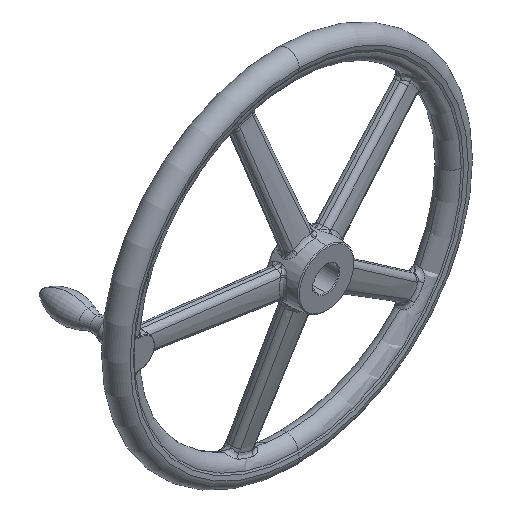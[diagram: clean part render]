
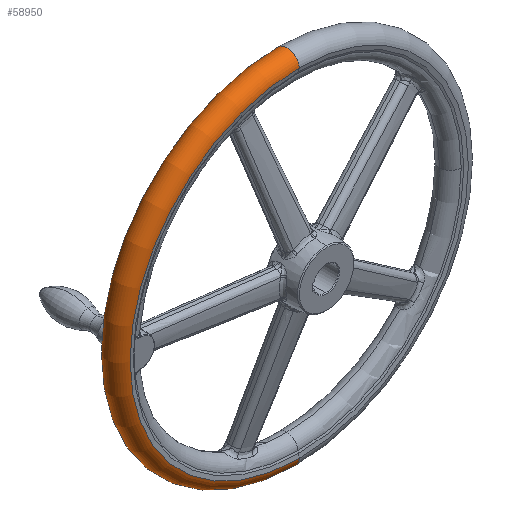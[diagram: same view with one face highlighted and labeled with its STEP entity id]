
A CAD part, isometric view. The second image highlights one B-rep face of the part: STEP entity #58950.
In plain terms, the highlighted toroidal (fillet/blend) face has major radius 232.939 mm and minor radius 17.061 mm.
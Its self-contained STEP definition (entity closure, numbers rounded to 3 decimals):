
#4489 = CARTESIAN_POINT ( 'NONE',  ( 0., 55., 0. ) ) ;
#4513 = AXIS2_PLACEMENT_3D ( 'NONE', #4489, #4526, #4525 ) ;
#4525 = DIRECTION ( 'NONE',  ( 0., 0., -1. ) ) ;
#4526 = DIRECTION ( 'NONE',  ( 0., -1., 0. ) ) ;
#4528 = TOROIDAL_SURFACE ( 'NONE', #4513, 232.939, 17.061 ) ;
#4530 = FACE_OUTER_BOUND ( 'NONE', #58885, .T. ) ;
#7768 = CARTESIAN_POINT ( 'NONE',  ( 0., 72., -234.378 ) ) ;
#7803 = CARTESIAN_POINT ( 'NONE',  ( 0., 72., 234.378 ) ) ;
#8681 = DIRECTION ( 'NONE',  ( 0., 0., -1. ) ) ;
#8682 = DIRECTION ( 'NONE',  ( 0., -1., 0. ) ) ;
#8683 = CARTESIAN_POINT ( 'NONE',  ( 0., 72., 0. ) ) ;
#8695 = AXIS2_PLACEMENT_3D ( 'NONE', #8683, #8682, #8681 ) ;
#8696 = CIRCLE ( 'NONE', #8695, 234.378 ) ;
#12989 = VERTEX_POINT ( 'NONE', #34560 ) ;
#15694 = VERTEX_POINT ( 'NONE', #34953 ) ;
#16197 = EDGE_CURVE ( 'NONE', #15694, #12989, #35214, .T. ) ;
#24425 = DIRECTION ( 'NONE',  ( 0., 0., -1. ) ) ;
#25715 = CIRCLE ( 'NONE', #25741, 17.061 ) ;
#25724 = DIRECTION ( 'NONE',  ( 1., 0., 0. ) ) ;
#25725 = CARTESIAN_POINT ( 'NONE',  ( 0., 55., 232.939 ) ) ;
#25741 = AXIS2_PLACEMENT_3D ( 'NONE', #25725, #25724, #24425 ) ;
#25774 = DIRECTION ( 'NONE',  ( 0., 0., 1. ) ) ;
#25775 = DIRECTION ( 'NONE',  ( -1., 0., 0. ) ) ;
#25776 = CARTESIAN_POINT ( 'NONE',  ( 0., 55., -232.939 ) ) ;
#25784 = CIRCLE ( 'NONE', #25785, 17.061 ) ;
#25785 = AXIS2_PLACEMENT_3D ( 'NONE', #25776, #25775, #25774 ) ;
#34560 = CARTESIAN_POINT ( 'NONE',  ( 0., 38., -234.378 ) ) ;
#34953 = CARTESIAN_POINT ( 'NONE',  ( 0., 38., 234.378 ) ) ;
#35210 = AXIS2_PLACEMENT_3D ( 'NONE', #35277, #35276, #35275 ) ;
#35214 = CIRCLE ( 'NONE', #35210, 234.378 ) ;
#35275 = DIRECTION ( 'NONE',  ( 0., 0., -1. ) ) ;
#35276 = DIRECTION ( 'NONE',  ( 0., -1., 0. ) ) ;
#35277 = CARTESIAN_POINT ( 'NONE',  ( 0., 38., 0. ) ) ;
#43880 = VERTEX_POINT ( 'NONE', #7768 ) ;
#43884 = VERTEX_POINT ( 'NONE', #7803 ) ;
#43951 = EDGE_CURVE ( 'NONE', #43884, #43880, #8696, .T. ) ;
#47978 = EDGE_CURVE ( 'NONE', #43884, #15694, #25715, .T. ) ;
#48054 = EDGE_CURVE ( 'NONE', #43880, #12989, #25784, .T. ) ;
#54200 = ORIENTED_EDGE ( 'NONE', *, *, #16197, .F. ) ;
#54426 = ORIENTED_EDGE ( 'NONE', *, *, #48054, .T. ) ;
#54453 = ORIENTED_EDGE ( 'NONE', *, *, #47978, .F. ) ;
#58774 = ORIENTED_EDGE ( 'NONE', *, *, #43951, .T. ) ;
#58885 = EDGE_LOOP ( 'NONE', ( #54453, #58774, #54426, #54200 ) ) ;
#58950 = ADVANCED_FACE ( 'NONE', ( #4530 ), #4528, .T. ) ;
